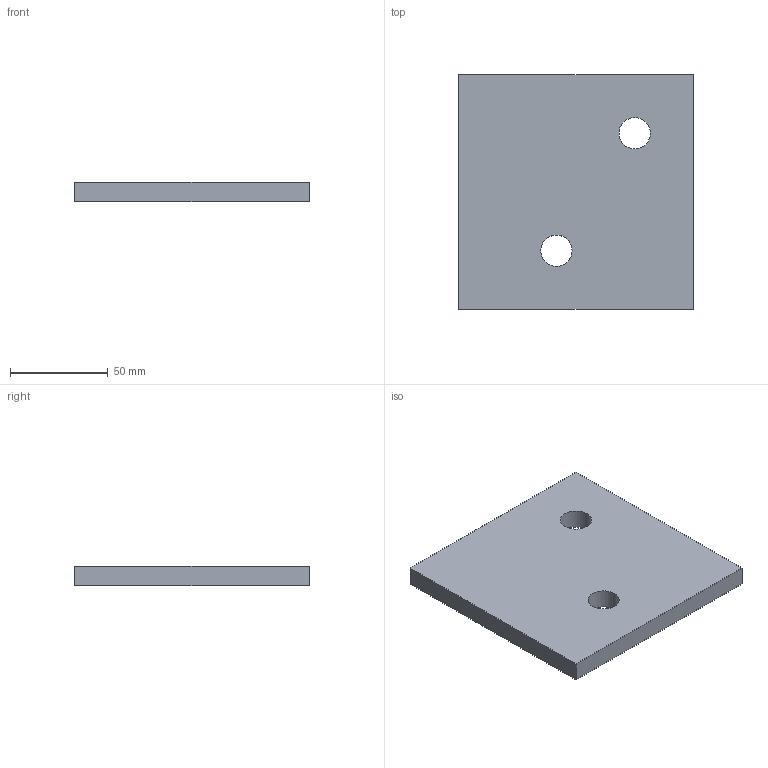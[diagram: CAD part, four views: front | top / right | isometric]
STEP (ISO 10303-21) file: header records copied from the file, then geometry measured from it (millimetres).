
FILE_DESCRIPTION(/* description */ (''),/* implementation_level */ '2;1');
FILE_NAME(/* name */ 'Pos127-Plaatwerk D= 10-S235JRG2-3st',/* time_stamp */ '2024-08-06T13:37:43+02:00',/* author */ (''),/* organization */ (''),/* preprocessor_version */ 'ST-DEVELOPER v16.5',/* originating_system */ 'HiCAD 2024 2901.2 Build 361',/* authorisation */ '');
FILE_SCHEMA (('AUTOMOTIVE_DESIGN { 1 0 10303 214 1 1 1 1 }'));
Length unit declared in the file: millimetre
Products named in the file (1): Pos127-Plaatwerk D= 10-S235JRG2-3st
Bounding box: 120 x 120 x 10 mm (x, y, z)
Volume: 139978.8 mm3; surface area: 33801.1 mm2
Topology: 1 solids, 1 shells, 8 faces, 18 edges, 12 vertices
Faces by surface type: plane 6, cylinder 2
Full cylindrical faces by diameter (mm): 16 x2
Entity records: 402 total; most frequent: DIRECTION 36, CARTESIAN_POINT 36, PRESENTATION_STYLE_ASSIGNMENT 33, COLOUR_RGB 33, DRAUGHTING_PRE_DEFINED_CURVE_FONT 32, CURVE_STYLE 32, OVER_RIDING_STYLED_ITEM 32, ORIENTED_EDGE 32
